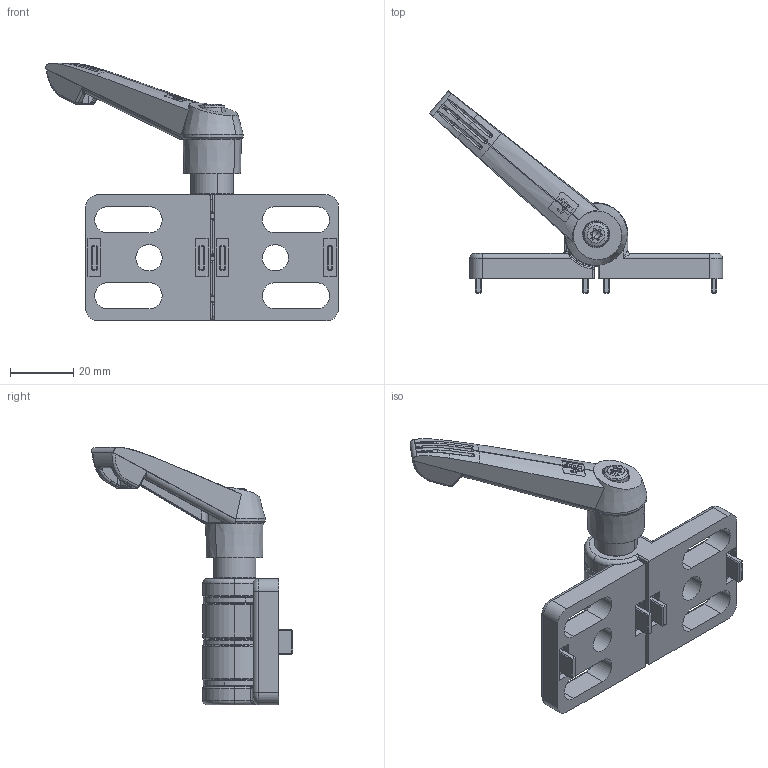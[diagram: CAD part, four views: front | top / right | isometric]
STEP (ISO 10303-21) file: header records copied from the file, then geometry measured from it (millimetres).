
FILE_DESCRIPTION(('STEP AP214'),'1');
FILE_NAME('C:/Program Files (x86)/Trace Software/PartsXML Tools/RobotPartsAuto/FATH/CAD/Temp/FATH_095300FN08.stp','2016-05-30T14:05:10',('TraceParts'),('TraceParts S.A.'),'Spatial InterOp 3D',' ',' ');
FILE_SCHEMA(('automotive_design'));
Length unit declared in the file: millimetre
Products named in the file (11): 095300fn08|NAUO7#12865m0612k_12865m0835k (G)|NAUO9#12865m0612k-1_12865m0835k (G);Imported1; 095300fn08|NAUO7#12865m0612k_12865m0835k (G)|NAUO10#12865m0612k-2_Standard;Imported1; 095300fn08|NAUO7#12865m0612k_12865m0835k (G)|NAUO11#12865m0612k-3_Standard;Imported1; 095300fn08|NAUO7#12865m0612k_12865m0835k (G)|NAUO12#12865m0612k-4_Standard;Imported1; 095300fn08|NAUO1#095310n08r_095310n08;Imported1; 095300fn08|NAUO2#095310n08r_095310n08-z;Imported1; 095300fn08|NAUO3#scheibe-20-8_scheibe 20-8;Imported1; 095300fn08|NAUO4#scheibe-20-8_scheibe 20-8;Imported1; 095300fn08|NAUO5#scheibe-20-8_scheibe 20-8;Imported1; 095300fn08|NAUO6#achse_8-40;Imported1; 095300fn08|NAUO8#m8x15i_m8 x 15;Imported1
Bounding box: 92.78 x 63.84 x 81.6 mm (x, y, z)
Volume: 41665 mm3; surface area: 26922.6 mm2
Topology: 11 solids, 11 shells, 1312 faces, 3324 edges, 2052 vertices
Faces by surface type: plane 460, cylinder 333, cone 221, torus 192, bspline 100, sphere 6
Entity records: 56662 total; most frequent: CARTESIAN_POINT 15328, ORIENTED_EDGE 6594, DIRECTION 6295, EDGE_CURVE 3297, AXIS2_PLACEMENT_3D 2506, VERTEX_POINT 2052, EDGE_LOOP 1387, STYLED_ITEM 1323
